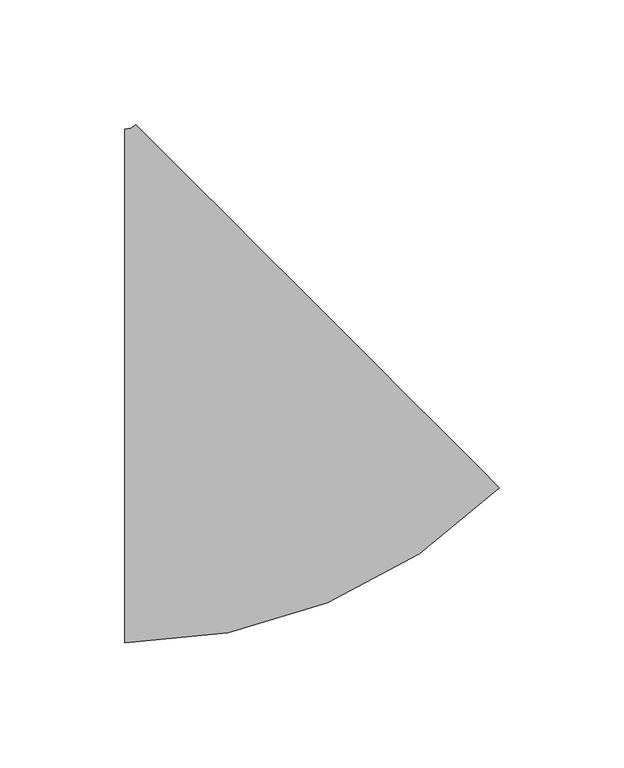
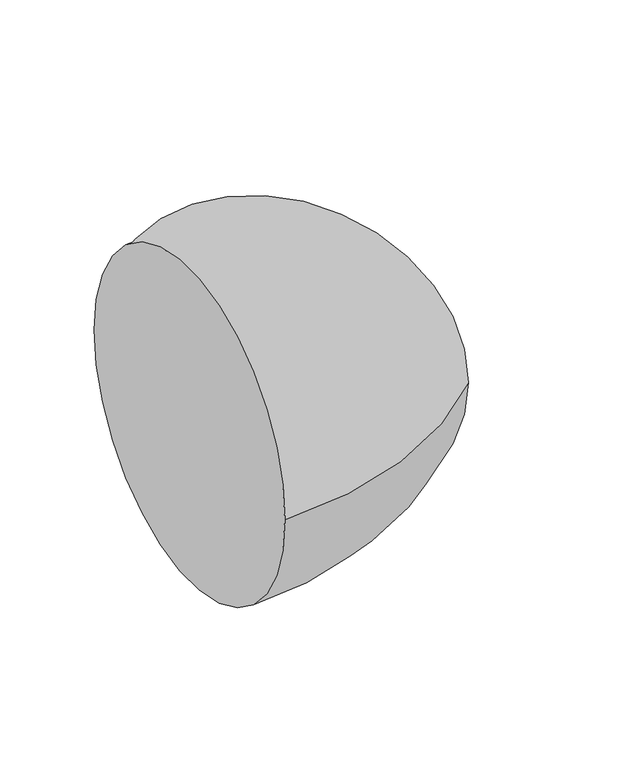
"""IFC4 building model written with IfcOpenShell, lengths in millimetres: pipe fitting geometry, M_Codo - Genérico : Estándar."""

from ifc_helpers import new_model, si_unit, point, frame, origin, place, context, project, spatial, circle_curve, ellipse_curve, trimmed, source, transform, mapped, element, save
from ifc_brep_helpers import plane_surface, revolved_surface, advanced_brep


def pipe_fitting_21571a13(model_context):
    return source(origin(), model_context, "Body", "AdvancedBrep", [
        advanced_brep(
        [(-45.3771849, -103.1875, 0.0), (-45.3771849, 103.1875, 0.0), (105.054451, -40.8694432, 0.0), (-40.8866883, 105.0477405, 0.0)],
        [
            (0, 1, circle_curve(frame((-45.3771849, 0.0, 0.0), z_axis=(-1.0, 0.0, 0.0), x_axis=(0.0, 1.0, 0.0)), 103.1875)),
            (1, 0, circle_curve(frame((-45.3771849, 0.0, 0.0), z_axis=(-1.0, 0.0, 0.0), x_axis=(0.0, 1.0, 0.0)), 103.1875)),
            (2, 3, circle_curve(frame((32.0838814, 32.0891487, 0.0), z_axis=(0.7070487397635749, 0.707164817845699, 0.0), x_axis=(-0.707164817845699, 0.7070487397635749, 0.0)), 103.1875)),
            (3, 2, circle_curve(frame((32.0838814, 32.0891487, 0.0), z_axis=(0.7070487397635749, 0.707164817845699, 0.0), x_axis=(-0.707164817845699, 0.7070487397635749, 0.0)), 103.1875)),
            (3, 1, circle_curve(frame((-45.3771849, 109.5375, 0.0), z_axis=(0.0, 0.0, -1.0), x_axis=(0.0, -1.0, 0.0)), 6.35)),
            (0, 2, circle_curve(frame((-45.3771849, 109.5375, 0.0), z_axis=(0.0, 0.0, 1.0), x_axis=(0.0, -1.0, 0.0)), 212.725)),
        ],
        [
            plane_surface(frame((-45.3771849, 0.0, 0.0), z_axis=(-1.0, 0.0, 0.0), x_axis=(0.0, 0.0, 1.0))),
            plane_surface(frame((32.0838814, 32.0891487, 0.0), z_axis=(0.7070487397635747, 0.7071648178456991, 0.0), x_axis=(0.0, 0.0, 1.0))),
            revolved_surface(trimmed(ellipse_curve(frame((-45.3771849, 0.0, 0.0), z_axis=(-1.0, 0.0, 0.0), x_axis=(0.0, 1.0, 0.0)), 103.1875, 103.1875), [point((-45.3771849, -103.1875, 0.0))], [point((-45.3771849, 103.1875, 0.0))], True, "CARTESIAN"), (-45.3771849, 109.5375, 0.0), (0.0, 0.0, 1.0)),
            revolved_surface(trimmed(ellipse_curve(frame((-45.3771849, 0.0, 0.0), z_axis=(-1.0, 0.0, 0.0), x_axis=(0.0, 1.0, 0.0)), 103.1875, 103.1875), [point((-45.3771849, 103.1875, 0.0))], [point((-45.3771849, -103.1875, 0.0))], True, "CARTESIAN"), (-45.3771849, 109.5375, 0.0), (0.0, 0.0, 1.0)),
        ],
        [
            (0, [[1, 2]]),
            (1, [[3, 4]]),
            (2, [[5, -1, 6, -4]]),
            (3, [[-6, -2, -5, -3]]),
        ],
    ),
    ])


if __name__ == "__main__":
    model = new_model("IFC4")
    model_context = context("Model", 3, world=origin())
    ifc_project = project(units=[si_unit("LENGTHUNIT", "METRE", prefix="MILLI")], contexts=[model_context])
    site = spatial("IfcSite", under=ifc_project)
    building = spatial("IfcBuilding", under=site)
    placement = place(None, origin())
    pipe_fitting_shape = pipe_fitting_21571a13(model_context)
    element("IfcPipeFitting", 1, ObjectType="M_Codo - Genérico : Estándar", at=placement, inside=building, context=model_context, shape_type="MappedRepresentation", body=[
        mapped(pipe_fitting_shape, transform((0.0, 0.0, 0.0), x_axis=(1.0, 0.0, 0.0), y_axis=(0.0, 1.0, 0.0), z_axis=(0.0, 0.0, 1.0))),
    ])
    save(model, "model.ifc")
